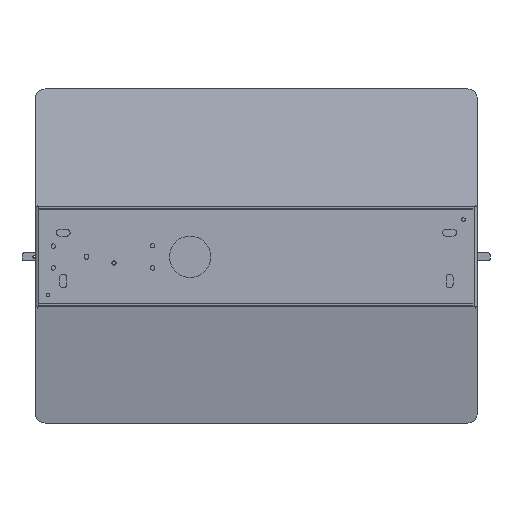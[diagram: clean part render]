
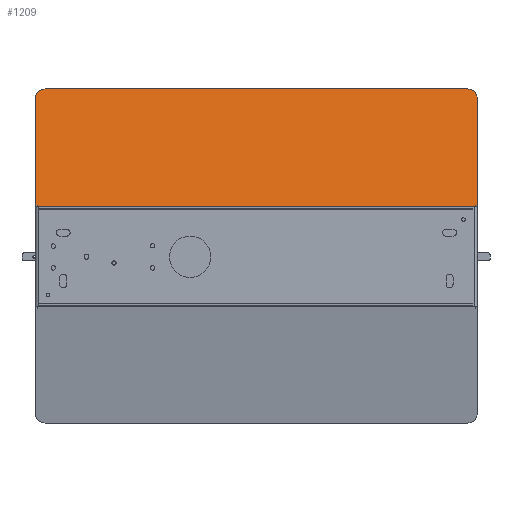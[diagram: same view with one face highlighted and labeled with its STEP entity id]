
A CAD part, front view. The second image highlights one B-rep face of the part: STEP entity #1209.
In plain terms, the highlighted planar face has unit normal (0, -0.983, 0.183) as drawn and (0, 0.978, -0.208) by its records, which use the part's own axes.
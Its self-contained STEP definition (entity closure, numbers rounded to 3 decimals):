
#6 = B_SPLINE_CURVE_WITH_KNOTS ( 'NONE', 3,
 ( #3002, #2999, #2994, #3003 ),
 .UNSPECIFIED., .F., .F.,
 ( 4, 4 ),
 ( 0., 0.011 ),
 .UNSPECIFIED. ) ;
#9 = ORIENTED_EDGE ( 'NONE', *, *, #843, .T. ) ;
#12 = ORIENTED_EDGE ( 'NONE', *, *, #846, .T. ) ;
#13 = ORIENTED_EDGE ( 'NONE', *, *, #857, .T. ) ;
#14 = ORIENTED_EDGE ( 'NONE', *, *, #856, .F. ) ;
#15 = ORIENTED_EDGE ( 'NONE', *, *, #849, .T. ) ;
#18 = ORIENTED_EDGE ( 'NONE', *, *, #855, .T. ) ;
#843 = EDGE_CURVE ( 'NONE', #1394, #1393, #6, .T. ) ;
#846 = EDGE_CURVE ( 'NONE', #1400, #1394, #2173, .T. ) ;
#849 = EDGE_CURVE ( 'NONE', #1389, #1400, #1657, .T. ) ;
#855 = EDGE_CURVE ( 'NONE', #1393, #1386, #2188, .T. ) ;
#856 = EDGE_CURVE ( 'NONE', #1383, #1386, #2190, .T. ) ;
#857 = EDGE_CURVE ( 'NONE', #1383, #1389, #2186, .T. ) ;
#1134 = EDGE_LOOP ( 'NONE', ( #9, #18, #14, #13, #15, #12 ) ) ;
#1209 = ADVANCED_FACE ( 'NONE', ( #2299 ), #3363, .T. ) ;
#1383 = VERTEX_POINT ( 'NONE', #4327 ) ;
#1386 = VERTEX_POINT ( 'NONE', #4330 ) ;
#1389 = VERTEX_POINT ( 'NONE', #4333 ) ;
#1393 = VERTEX_POINT ( 'NONE', #4337 ) ;
#1394 = VERTEX_POINT ( 'NONE', #4338 ) ;
#1400 = VERTEX_POINT ( 'NONE', #4344 ) ;
#1657 = B_SPLINE_CURVE_WITH_KNOTS ( 'NONE', 3,
 ( #3017, #3013, #3011, #3019 ),
 .UNSPECIFIED., .F., .F.,
 ( 4, 4 ),
 ( 0., 0.011 ),
 .UNSPECIFIED. ) ;
#2173 = LINE ( 'NONE', #3007, #2176 ) ;
#2176 = VECTOR ( 'NONE', #3010, 1000. ) ;
#2186 = LINE ( 'NONE', #3022, #2195 ) ;
#2188 = LINE ( 'NONE', #3032, #2191 ) ;
#2190 = LINE ( 'NONE', #3034, #2193 ) ;
#2191 = VECTOR ( 'NONE', #3033, 1000. ) ;
#2193 = VECTOR ( 'NONE', #3035, 1000. ) ;
#2195 = VECTOR ( 'NONE', #3036, 1000. ) ;
#2299 = FACE_OUTER_BOUND ( 'NONE', #1134, .T. ) ;
#2994 = CARTESIAN_POINT ( 'NONE',  ( -160.096, -22.903, -118.105 ) ) ;
#2999 = CARTESIAN_POINT ( 'NONE',  ( -156.962, -23.555, -121.171 ) ) ;
#3002 = CARTESIAN_POINT ( 'NONE',  ( -153.095, -23.555, -121.171 ) ) ;
#3003 = CARTESIAN_POINT ( 'NONE',  ( -160.096, -22.1, -114.323 ) ) ;
#3007 = CARTESIAN_POINT ( 'NONE',  ( 0., -23.555, -121.171 ) ) ;
#3010 = DIRECTION ( 'NONE',  ( -1., 0., 0. ) ) ;
#3011 = CARTESIAN_POINT ( 'NONE',  ( 156.961, -23.555, -121.171 ) ) ;
#3013 = CARTESIAN_POINT ( 'NONE',  ( 160.096, -22.903, -118.105 ) ) ;
#3017 = CARTESIAN_POINT ( 'NONE',  ( 160.096, -22.1, -114.323 ) ) ;
#3019 = CARTESIAN_POINT ( 'NONE',  ( 153.095, -23.555, -121.171 ) ) ;
#3022 = CARTESIAN_POINT ( 'NONE',  ( 160.096, -11.757, -65.665 ) ) ;
#3032 = CARTESIAN_POINT ( 'NONE',  ( -160.096, -11.757, -65.665 ) ) ;
#3033 = DIRECTION ( 'NONE',  ( 0., 0.208, 0.978 ) ) ;
#3034 = CARTESIAN_POINT ( 'NONE',  ( 0., 0.041, -10.159 ) ) ;
#3035 = DIRECTION ( 'NONE',  ( -1., 0., 0. ) ) ;
#3036 = DIRECTION ( 'NONE',  ( 0., -0.208, -0.978 ) ) ;
#3139 = AXIS2_PLACEMENT_3D ( 'NONE', #3364, #3369, #3370 ) ;
#3363 = PLANE ( 'NONE',  #3139 ) ;
#3364 = CARTESIAN_POINT ( 'NONE',  ( -160.096, -23.555, -121.171 ) ) ;
#3369 = DIRECTION ( 'NONE',  ( 0., 0.978, -0.208 ) ) ;
#3370 = DIRECTION ( 'NONE',  ( 0., 0.208, 0.978 ) ) ;
#4327 = CARTESIAN_POINT ( 'NONE',  ( 160.096, 0.041, -10.159 ) ) ;
#4330 = CARTESIAN_POINT ( 'NONE',  ( -160.096, 0.041, -10.159 ) ) ;
#4333 = CARTESIAN_POINT ( 'NONE',  ( 160.096, -22.1, -114.323 ) ) ;
#4337 = CARTESIAN_POINT ( 'NONE',  ( -160.096, -22.1, -114.323 ) ) ;
#4338 = CARTESIAN_POINT ( 'NONE',  ( -153.095, -23.555, -121.171 ) ) ;
#4344 = CARTESIAN_POINT ( 'NONE',  ( 153.095, -23.555, -121.171 ) ) ;
